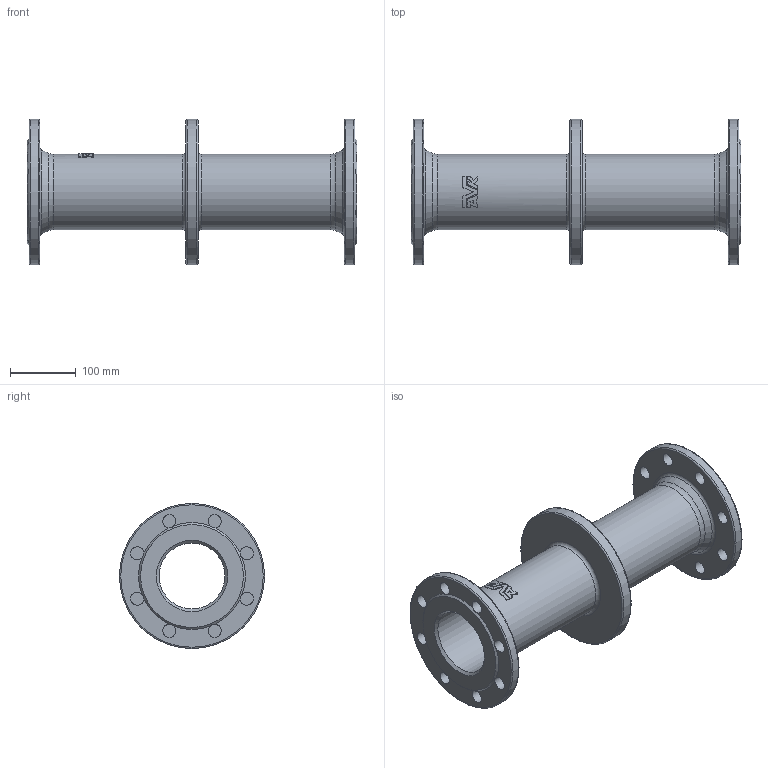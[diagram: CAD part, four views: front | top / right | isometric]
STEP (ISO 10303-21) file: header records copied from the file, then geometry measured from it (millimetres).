
FILE_DESCRIPTION (( 'STEP AP203' ), '1' );
FILE_NAME ('O_712_6010_DN100_1_AA0.step', '2019-07-09T09:29:58', ( 'Windows User' ), ( 'AVK' ), 'SwSTEP 2.0', 'SolidWorks 2012', '' );
FILE_SCHEMA (( 'CONFIG_CONTROL_DESIGN' ));
Length unit declared in the file: millimetre
Products named in the file (1): O_712_6010_DN100_1_AA0
Bounding box: 500 x 220 x 220 mm (x, y, z)
Volume: 2622317.6 mm3; surface area: 519307 mm2
Topology: 1 solids, 1 shells, 89 faces, 271 edges, 177 vertices
Faces by surface type: plane 28, cylinder 26, bspline 17, torus 12, cone 6
Full cylindrical faces by diameter (mm): 20 x16, 100 x1, 114 x2, 220 x3
Entity records: 3479 total; most frequent: CARTESIAN_POINT 1353, ORIENTED_EDGE 410, DIRECTION 382, EDGE_CURVE 205, AXIS2_PLACEMENT_3D 183, EDGE_LOOP 157, VERTEX_POINT 152, FACE_OUTER_BOUND 123
